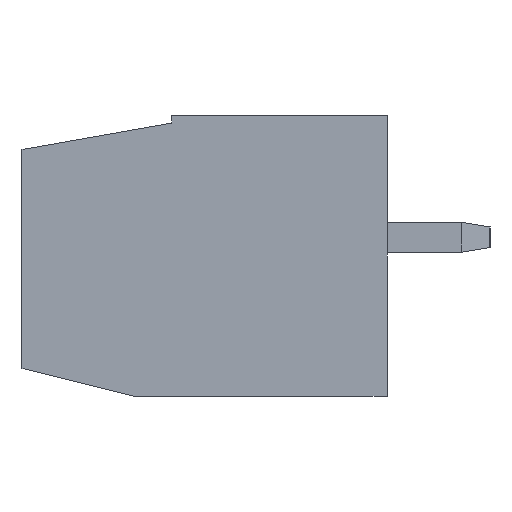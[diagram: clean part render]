
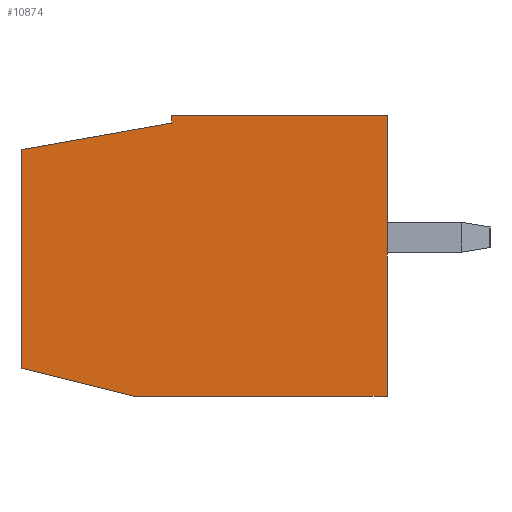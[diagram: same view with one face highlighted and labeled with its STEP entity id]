
A CAD part, left-side view. The second image highlights one B-rep face of the part: STEP entity #10874.
In plain terms, the highlighted planar face has unit normal (-1, 0, 0).
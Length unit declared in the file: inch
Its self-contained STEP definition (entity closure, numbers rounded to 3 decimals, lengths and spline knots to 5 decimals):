
#1=DIRECTION('',(0.,0.,1.));
#2=VECTOR('',#1,0.008);
#3=CARTESIAN_POINT('',(-1.2795,0.,0.122));
#4=LINE('',#3,#2);
#5=DIRECTION('',(0.,-1.,0.));
#6=VECTOR('',#5,0.23);
#7=CARTESIAN_POINT('',(-1.2795,0.,0.13));
#8=LINE('',#7,#6);
#9=DIRECTION('',(0.,0.,-1.));
#10=VECTOR('',#9,0.3);
#11=CARTESIAN_POINT('',(-1.2795,-0.23,0.13));
#12=LINE('',#11,#10);
#13=DIRECTION('',(0.,1.,0.));
#14=VECTOR('',#13,0.27);
#15=CARTESIAN_POINT('',(-1.2795,-0.23,-0.17));
#16=LINE('',#15,#14);
#17=DIRECTION('',(0.,0.97,0.242));
#18=VECTOR('',#17,0.12367);
#19=CARTESIAN_POINT('',(-1.2795,0.04,-0.17));
#20=LINE('',#19,#18);
#21=DIRECTION('',(0.,0.,1.));
#22=VECTOR('',#21,0.23387);
#23=CARTESIAN_POINT('',(-1.2795,0.16,-0.14008));
#24=LINE('',#23,#22);
#25=DIRECTION('',(0.,-0.985,0.174));
#26=VECTOR('',#25,0.16247);
#27=CARTESIAN_POINT('',(-1.2795,0.16,0.09379));
#28=LINE('',#27,#26);
#8561=CARTESIAN_POINT('',(-1.2795,0.,0.122));
#8562=CARTESIAN_POINT('',(-1.2795,0.,0.13));
#8563=VERTEX_POINT('',#8561);
#8564=VERTEX_POINT('',#8562);
#8565=CARTESIAN_POINT('',(-1.2795,-0.23,0.13));
#8566=VERTEX_POINT('',#8565);
#8567=CARTESIAN_POINT('',(-1.2795,-0.23,-0.17));
#8568=VERTEX_POINT('',#8567);
#8569=CARTESIAN_POINT('',(-1.2795,0.04,-0.17));
#8570=VERTEX_POINT('',#8569);
#8571=CARTESIAN_POINT('',(-1.2795,0.16,-0.14008));
#8572=VERTEX_POINT('',#8571);
#8573=CARTESIAN_POINT('',(-1.2795,0.16,0.09379));
#8574=VERTEX_POINT('',#8573);
#10853=CARTESIAN_POINT('',(-1.2795,0.,0.));
#10854=DIRECTION('',(1.,0.,0.));
#10855=DIRECTION('',(0.,0.,-1.));
#10856=AXIS2_PLACEMENT_3D('',#10853,#10854,#10855);
#10857=PLANE('',#10856);
#10859=ORIENTED_EDGE('',*,*,#10858,.T.);
#10861=ORIENTED_EDGE('',*,*,#10860,.T.);
#10863=ORIENTED_EDGE('',*,*,#10862,.T.);
#10865=ORIENTED_EDGE('',*,*,#10864,.T.);
#10867=ORIENTED_EDGE('',*,*,#10866,.T.);
#10869=ORIENTED_EDGE('',*,*,#10868,.T.);
#10871=ORIENTED_EDGE('',*,*,#10870,.T.);
#10872=EDGE_LOOP('',(#10859,#10861,#10863,#10865,#10867,#10869,#10871));
#10873=FACE_OUTER_BOUND('',#10872,.F.);
#10874=ADVANCED_FACE('',(#10873),#10857,.F.);
#10858=EDGE_CURVE('',#8563,#8564,#4,.T.);
#10860=EDGE_CURVE('',#8564,#8566,#8,.T.);
#10862=EDGE_CURVE('',#8566,#8568,#12,.T.);
#10864=EDGE_CURVE('',#8568,#8570,#16,.T.);
#10866=EDGE_CURVE('',#8570,#8572,#20,.T.);
#10868=EDGE_CURVE('',#8572,#8574,#24,.T.);
#10870=EDGE_CURVE('',#8574,#8563,#28,.T.);
